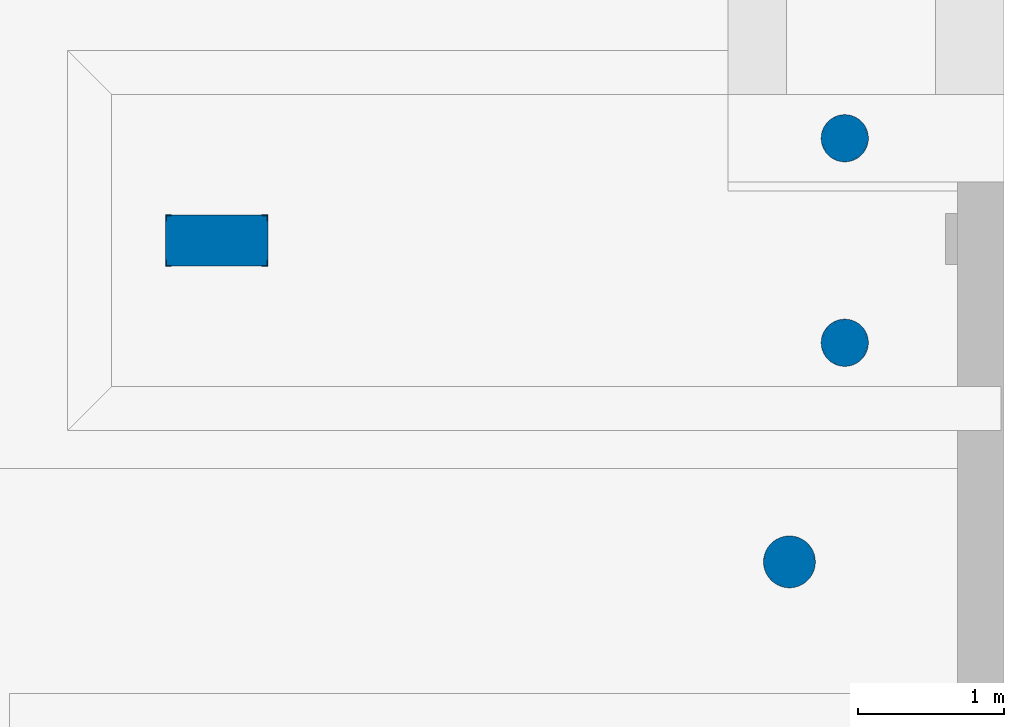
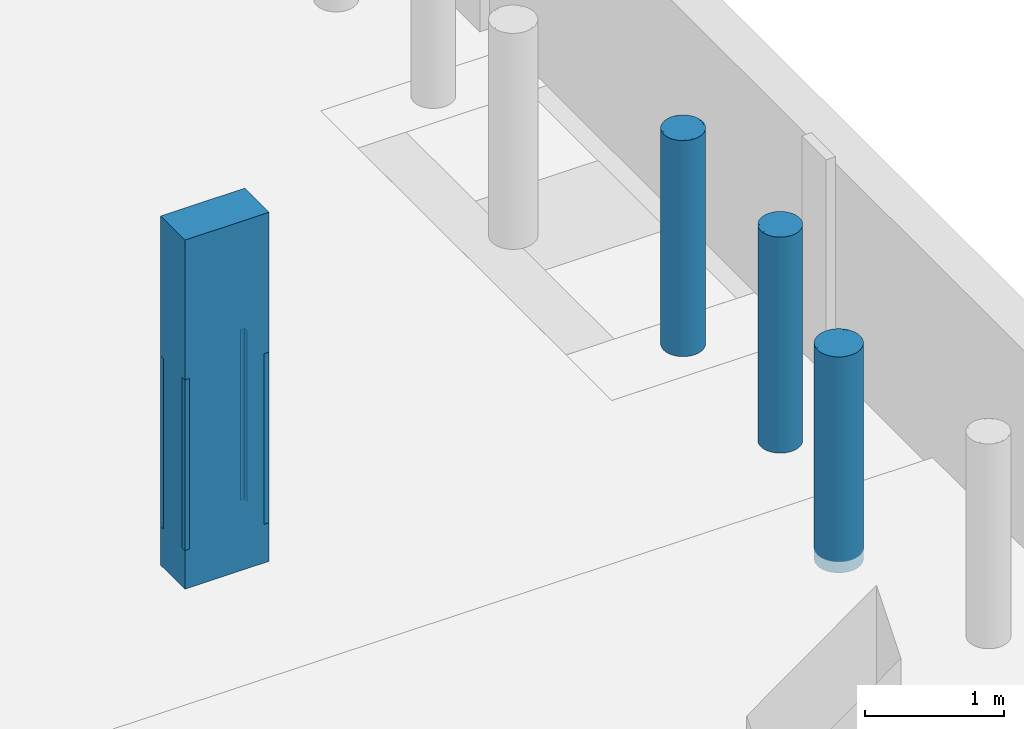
# One storey, part 13 of 42: 8 columns.
"""IFC2X3 building model written with IfcOpenShell, lengths in millimetres."""

from ifc_helpers import new_model, entity, si_unit, converted_unit, derived_unit, direction, frame, frame_2d, origin, origin_2d_with_axis, place, context, subcontext, project, spatial, polyline, circle_curve, parameter, trimmed, segment, composite_curve, rectangle, circle, hollow_circle, outline, extrude, source, transform, mapped, material, material_list, type_object, type_shapes, element, save


model = new_model("IFC2X3")

# Units and contexts
model_context = context("Model", 3, precision=0.01, world=origin(), true_north=direction((6.12303176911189e-17, 1.0)))
body_context = subcontext(model_context, "Body", "Model", "MODEL_VIEW")
ifc_project = project(units=[si_unit("LENGTHUNIT", "METRE", prefix="MILLI"), si_unit("AREAUNIT", "SQUARE_METRE", prefix="MILLI"), si_unit("VOLUMEUNIT", "CUBIC_METRE"), converted_unit("PLANEANGLEUNIT", "DEGREE", entity("IfcRatioMeasure", 0.0174532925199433), si_unit("PLANEANGLEUNIT", "RADIAN"), dimensions=[0, 0, 0, 0, 0, 0, 0]), si_unit("MASSUNIT", "GRAM", prefix="KILO"), derived_unit("MASSDENSITYUNIT", [(si_unit("MASSUNIT", "GRAM", prefix="KILO"), 1), (si_unit("LENGTHUNIT", "METRE"), -3)]), derived_unit("MOMENTOFINERTIAUNIT", [(si_unit("LENGTHUNIT", "METRE"), 4)]), si_unit("TIMEUNIT", "SECOND"), si_unit("FREQUENCYUNIT", "HERTZ"), si_unit("THERMODYNAMICTEMPERATUREUNIT", "DEGREE_CELSIUS"), derived_unit("THERMALTRANSMITTANCEUNIT", [(si_unit("MASSUNIT", "GRAM", prefix="KILO"), 1), (si_unit("THERMODYNAMICTEMPERATUREUNIT", "KELVIN"), -1), (si_unit("TIMEUNIT", "SECOND"), -3)]), derived_unit("VOLUMETRICFLOWRATEUNIT", [(si_unit("LENGTHUNIT", "METRE"), 3), (si_unit("TIMEUNIT", "SECOND"), -1)]), si_unit("ELECTRICCURRENTUNIT", "AMPERE"), si_unit("ELECTRICVOLTAGEUNIT", "VOLT"), si_unit("POWERUNIT", "WATT"), si_unit("FORCEUNIT", "NEWTON", prefix="KILO"), si_unit("ILLUMINANCEUNIT", "LUX"), si_unit("LUMINOUSFLUXUNIT", "LUMEN"), si_unit("LUMINOUSINTENSITYUNIT", "CANDELA"), derived_unit("USERDEFINED", [(si_unit("MASSUNIT", "GRAM", prefix="KILO"), -1), (si_unit("LENGTHUNIT", "METRE"), -2), (si_unit("TIMEUNIT", "SECOND"), 3), (si_unit("LUMINOUSFLUXUNIT", "LUMEN"), 1)]), derived_unit("LINEARVELOCITYUNIT", [(si_unit("LENGTHUNIT", "METRE"), 1), (si_unit("TIMEUNIT", "SECOND"), -1)]), si_unit("PRESSUREUNIT", "PASCAL"), derived_unit("USERDEFINED", [(si_unit("LENGTHUNIT", "METRE"), -2), (si_unit("MASSUNIT", "GRAM", prefix="KILO"), 1), (si_unit("TIMEUNIT", "SECOND"), -2)]), derived_unit("LINEARFORCEUNIT", [(si_unit("MASSUNIT", "GRAM", prefix="KILO"), 1), (si_unit("LENGTHUNIT", "METRE"), 1), (si_unit("TIMEUNIT", "SECOND"), -2), (si_unit("LENGTHUNIT", "METRE"), -1)]), derived_unit("PLANARFORCEUNIT", [(si_unit("MASSUNIT", "GRAM", prefix="KILO"), 1), (si_unit("LENGTHUNIT", "METRE"), 1), (si_unit("TIMEUNIT", "SECOND"), -2), (si_unit("LENGTHUNIT", "METRE"), -2)])], contexts=[model_context])

# Site, building, storey
site_placement = place(None, origin())
site = spatial("IfcSite", under=ifc_project, at=site_placement, Name="Theater aan de Parade", CompositionType="ELEMENT")
building_placement = place(site_placement, origin())
building = spatial("IfcBuilding", under=site, at=building_placement, Name="Theater aan de Parade", CompositionType="ELEMENT")
storey_placement = place(building_placement, frame((0.0, 0.0, -3300.0)))
storey = spatial("IfcBuildingStorey", under=building, at=storey_placement, Name="-1 kelder", CompositionType="ELEMENT", Elevation=-3300.0)

# Columns
ifc_material_1 = material(Name="00_PBT_MAT_beton t.p.g.")
column_type_1 = type_object("IfcColumnType", Name="28_PBT_SC_beton_rechthoekig:700x350_bestaand", PredefinedType="COLUMN", material=ifc_material_1)
shared_shape_1 = source(origin(), body_context, "Body", "SweptSolid", [
    extrude(rectangle(XDim=349.999999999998, YDim=700.000000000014, at=origin_2d_with_axis()), frame((83290.0, 24970.0, -2640.0), z_axis=(0.0, 0.0, 1.0), x_axis=(0.0, -1.0, 0.0)), (0.0, 0.0, 1.0), 3070.00000000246),
])
type_shapes(column_type_1, [shared_shape_1])
column_1_placement = place(storey_placement, frame((0.0, 0.0, 3300.0)))
element("IfcColumn", 1, at=column_1_placement, inside=storey, type_object=column_type_1, material=ifc_material_1, Name="28_PBT_SC_beton_rechthoekig:700x350_bestaand", ObjectType="28_PBT_SC_beton_rechthoekig:700x350_bestaand", context=body_context, shape_type="MappedRepresentation", body=[
    mapped(shared_shape_1, transform((0.0, 0.0, 0.0), scale=1.0)),
])
ifc_material_2 = material(Name="00_PBT_MAT_staal")
column_type_2 = type_object("IfcColumnType", Name="28_PBT_SC_staal_L-profiel:L40x40x4_bestaand", PredefinedType="COLUMN", material=ifc_material_2)
shared_shape_2 = source(origin(), body_context, "Body", "SweptSolid", [
    extrude(outline(composite_curve([segment(polyline([(-15.1111111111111, -15.1111111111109), (24.8888888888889, -15.1111111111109)]), True, "CONTINUOUS"), segment(polyline([(24.8888888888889, -15.1111111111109), (24.8888888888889, -14.1111111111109)]), True, "CONTINUOUS"), segment(trimmed(circle_curve(frame_2d((21.8888888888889, -14.1111111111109), x_axis=(1.0, 0.0)), 3.0), [parameter(0.0)], [parameter(90.0000000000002)], True, "PARAMETER"), True, "CONTINUOUS"), segment(polyline([(21.8888888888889, -11.1111111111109), (-5.11111111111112, -11.1111111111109)]), True, "CONTINUOUS"), segment(trimmed(circle_curve(frame_2d((-5.11111111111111, -5.11111111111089), x_axis=(0.0, -1.0)), 6.0), [parameter(270.0)], [parameter(0.0)], True, "PARAMETER"), False, "CONTINUOUS"), segment(polyline([(-11.1111111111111, -5.11111111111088), (-11.1111111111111, 21.8888888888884)]), True, "CONTINUOUS"), segment(trimmed(circle_curve(frame_2d((-14.1111111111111, 21.8888888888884), x_axis=(1.0, 0.0)), 3.0), [parameter(0.0)], [parameter(90.0000000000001)], True, "PARAMETER"), True, "CONTINUOUS"), segment(polyline([(-14.1111111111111, 24.8888888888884), (-15.1111111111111, 24.8888888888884)]), True, "CONTINUOUS"), segment(polyline([(-15.1111111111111, 24.8888888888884), (-15.1111111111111, -15.1111111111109)]), True, "CONTINUOUS")], self_intersect=False)), frame((3.91111111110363, -3.9111111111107, -2300.0), z_axis=(0.0, 0.0, 1.0), x_axis=(0.0, -1.0, 0.0)), (0.0, 0.0, 1.0), 1500.0),
])
type_shapes(column_type_2, [shared_shape_2])
column_2_placement = place(storey_placement, frame((82951.2, 25133.7999999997, 3300.0)))
element("IfcColumn", 2, at=column_2_placement, inside=storey, type_object=column_type_2, material=ifc_material_2, Name="28_PBT_SC_staal_L-profiel:L40x40x4_bestaand", ObjectType="28_PBT_SC_staal_L-profiel:L40x40x4_bestaand", context=body_context, shape_type="MappedRepresentation", body=[
    mapped(shared_shape_2, transform((0.0, 0.0, 0.0), scale=1.0)),
])
column_3_placement = place(storey_placement, frame((83628.7999999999, 24806.1999999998, 3300.0), z_axis=(0.0, 0.0, 1.0), x_axis=(-1.0, 0.0, 0.0)))
element("IfcColumn", 3, at=column_3_placement, inside=storey, type_object=column_type_2, material=ifc_material_2, Name="28_PBT_SC_staal_L-profiel:L40x40x4_bestaand", ObjectType="28_PBT_SC_staal_L-profiel:L40x40x4_bestaand", context=body_context, shape_type="MappedRepresentation", body=[
    mapped(shared_shape_2, transform((0.0, 0.0, 0.0), scale=1.0)),
])
column_type_3 = type_object("IfcColumnType", Name="28_PBT_SC_staal_L-profiel:L40x40x4_bestaand", PredefinedType="COLUMN", material=ifc_material_2)
shared_shape_3 = source(origin(), body_context, "Body", "SweptSolid", [
    extrude(outline(composite_curve([segment(polyline([(-24.8888888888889, -15.1111111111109), (15.1111111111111, -15.1111111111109)]), True, "CONTINUOUS"), segment(polyline([(15.1111111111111, -15.1111111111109), (15.1111111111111, 24.8888888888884)]), True, "CONTINUOUS"), segment(polyline([(15.1111111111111, 24.8888888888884), (14.1111111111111, 24.8888888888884)]), True, "CONTINUOUS"), segment(trimmed(circle_curve(frame_2d((14.1111111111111, 21.8888888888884), x_axis=(0.0, 1.0)), 3.0), [parameter(0.0)], [parameter(89.9999999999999)], True, "PARAMETER"), True, "CONTINUOUS"), segment(polyline([(11.1111111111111, 21.8888888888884), (11.1111111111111, -5.11111111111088)]), True, "CONTINUOUS"), segment(trimmed(circle_curve(frame_2d((5.1111111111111, -5.1111111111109), x_axis=(1.0, 0.0)), 6.0), [parameter(270.0)], [parameter(0.0)], True, "PARAMETER"), False, "CONTINUOUS"), segment(polyline([(5.11111111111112, -11.1111111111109), (-21.8888888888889, -11.1111111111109)]), True, "CONTINUOUS"), segment(trimmed(circle_curve(frame_2d((-21.8888888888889, -14.1111111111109), x_axis=(0.0, 1.0)), 3.0), [parameter(0.0)], [parameter(90.0000000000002)], True, "PARAMETER"), True, "CONTINUOUS"), segment(polyline([(-24.8888888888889, -14.1111111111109), (-24.8888888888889, -15.1111111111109)]), True, "CONTINUOUS")], self_intersect=False)), frame((3.91111111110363, 3.91111111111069, -2300.0), z_axis=(0.0, 0.0, 1.0), x_axis=(0.0, -1.0, 0.0)), (0.0, 0.0, 1.0), 1500.0),
])
type_shapes(column_type_3, [shared_shape_3])
column_4_placement = place(storey_placement, frame((83628.7999999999, 25133.7999999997, 3300.0), z_axis=(0.0, 0.0, 1.0), x_axis=(-1.0, 0.0, 0.0)))
element("IfcColumn", 4, at=column_4_placement, inside=storey, type_object=column_type_3, material=ifc_material_2, Name="28_PBT_SC_staal_L-profiel:L40x40x4_bestaand", ObjectType="28_PBT_SC_staal_L-profiel:L40x40x4_bestaand", context=body_context, shape_type="MappedRepresentation", body=[
    mapped(shared_shape_3, transform((0.0, 0.0, 0.0), scale=1.0)),
])
column_5_placement = place(storey_placement, frame((82951.2, 24806.1999999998, 3300.0)))
element("IfcColumn", 5, at=column_5_placement, inside=storey, type_object=column_type_3, material=ifc_material_2, Name="28_PBT_SC_staal_L-profiel:L40x40x4_bestaand", ObjectType="28_PBT_SC_staal_L-profiel:L40x40x4_bestaand", context=body_context, shape_type="MappedRepresentation", body=[
    mapped(shared_shape_3, transform((0.0, 0.0, 0.0), scale=1.0)),
])
ifc_material_3 = material(Name="00_PBT_MAT_staal_S355")
ifc_material_4 = material(Name="00_PBT_MAT_beton t.p.g._C40/50")
ifc_material_list_1 = material_list([ifc_material_3, ifc_material_4])
ifc_material_list_2 = material_list([ifc_material_3, ifc_material_4])
column_type_4 = type_object("IfcColumnType", Name="28_PBT_SC_staal_buis:S355_B355.6x10_GB_C40/50", PredefinedType="COLUMN", material=ifc_material_list_2)
shared_shape_4 = source(origin(), body_context, "Body", "SweptSolid", [
    extrude(hollow_circle(Radius=177.8, WallThickness=10.0, at=frame_2d((1.77837538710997e-15, -3.26747168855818e-13), x_axis=(1.0, 0.0))), frame((0.0, 0.0, -2640.0), z_axis=(0.0, 0.0, 1.0), x_axis=(-1.0, 0.0, 0.0)), (0.0, 0.0, 1.0), 1900.00000000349),
    extrude(circle(Radius=167.8, at=frame_2d((-6.17986865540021e-15, 1.42612000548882e-12), x_axis=(1.0, 0.0))), frame((0.0, 0.0, -2640.0)), (0.0, 0.0, 1.0), 1900.00000000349),
])
type_shapes(column_type_4, [shared_shape_4])
column_6_placement = place(storey_placement, frame((87211.0, 22770.0, 3300.0)))
element("IfcColumn", 6, at=column_6_placement, inside=storey, type_object=column_type_4, material=ifc_material_list_1, Name="28_PBT_SC_staal_buis:S355_B355.6x10_GB_C40/50", ObjectType="28_PBT_SC_staal_buis:S355_B355.6x10_GB_C40/50", context=body_context, shape_type="MappedRepresentation", body=[
    mapped(shared_shape_4, transform((0.0, 0.0, 0.0), scale=1.0)),
])
ifc_material_list_3 = material_list([ifc_material_3, ifc_material_4])
ifc_material_list_4 = material_list([ifc_material_3, ifc_material_4])
column_type_5 = type_object("IfcColumnType", Name="28_PBT_SC_staal_buis:S355_B323.9x10_GB_C40/50", PredefinedType="COLUMN", material=ifc_material_list_4)
shared_shape_5 = source(origin(), body_context, "Body", "SweptSolid", [
    extrude(hollow_circle(Radius=161.95, WallThickness=9.99999999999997, at=frame_2d((1.77837538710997e-15, -2.97621380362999e-13), x_axis=(1.0, 0.0))), frame((0.0, 0.0, -2640.0), z_axis=(0.0, 0.0, 1.0), x_axis=(-1.0, 0.0, 0.0)), (0.0, 0.0, 1.0), 1900.00000000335),
    extrude(circle(Radius=151.95, at=frame_2d((-6.17986865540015e-15, 1.29141200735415e-12), x_axis=(1.0, 0.0))), frame((0.0, 0.0, -2640.0)), (0.0, 0.0, 1.0), 1900.00000000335),
])
type_shapes(column_type_5, [shared_shape_5])
column_7_placement = place(storey_placement, frame((87590.0, 25670.0, 3300.0)))
element("IfcColumn", 7, at=column_7_placement, inside=storey, type_object=column_type_5, material=ifc_material_list_3, Name="28_PBT_SC_staal_buis:S355_B323.9x10_GB_C40/50", ObjectType="28_PBT_SC_staal_buis:S355_B323.9x10_GB_C40/50", context=body_context, shape_type="MappedRepresentation", body=[
    mapped(shared_shape_5, transform((0.0, 0.0, 0.0), scale=1.0)),
])
ifc_material_list_5 = material_list([ifc_material_3, ifc_material_4])
column_8_placement = place(storey_placement, frame((87590.0, 24270.0, 3300.0)))
element("IfcColumn", 8, at=column_8_placement, inside=storey, type_object=column_type_5, material=ifc_material_list_5, Name="28_PBT_SC_staal_buis:S355_B323.9x10_GB_C40/50", ObjectType="28_PBT_SC_staal_buis:S355_B323.9x10_GB_C40/50", context=body_context, shape_type="MappedRepresentation", body=[
    mapped(shared_shape_5, transform((0.0, 0.0, 0.0), scale=1.0)),
])

save(model, "model.ifc")
